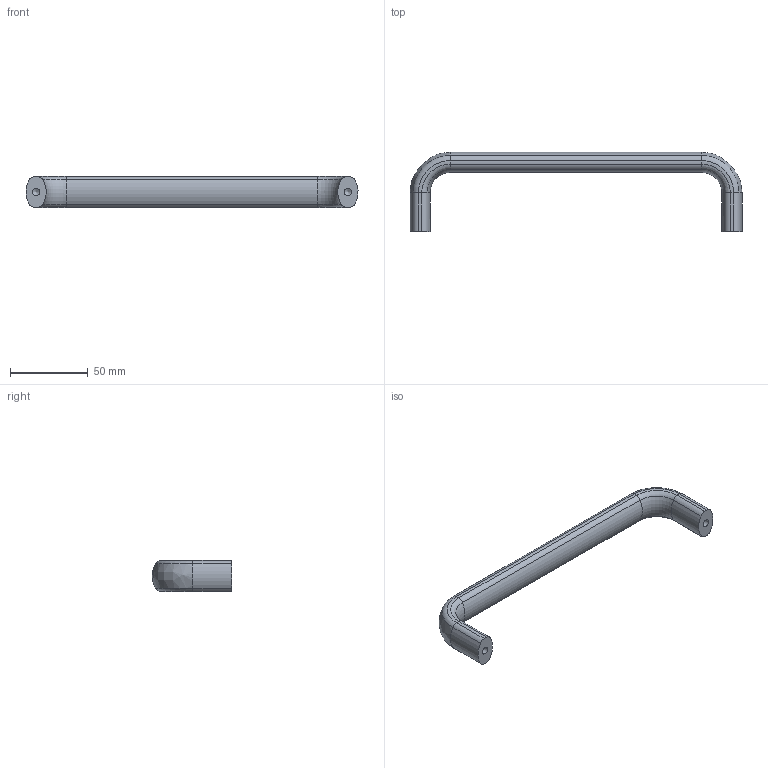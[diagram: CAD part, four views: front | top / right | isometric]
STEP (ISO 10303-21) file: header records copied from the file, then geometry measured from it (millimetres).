
FILE_DESCRIPTION( ( 'STEP AP203' ), '1' );
FILE_NAME( 'C:/Temp/Ganter_Step_05_03_2020/data/1_2/gn_565/Cabinet ''''U'''' handle GN 565-20-200-SR.stp', '2020-03-05T10:08:49', ( 'License CC BY-ND 4.0' ), ( 'CADENAS' ), ' ', 'PARTsolutions', ' ' );
FILE_SCHEMA( ( 'CONFIG_CONTROL_DESIGN' ) );
Length unit declared in the file: millimetre
Products named in the file (1): _Cabinet ''U'' handle GN 565-20-200-SR
Bounding box: 212.91 x 50.97 x 19.99 mm (x, y, z)
Volume: 56656.6 mm3; surface area: 15310.5 mm2
Topology: 1 solids, 1 shells, 53 faces, 128 edges, 77 vertices
Faces by surface type: cylinder 26, torus 14, plane 9, bspline 2, cone 2
Full cylindrical faces by diameter (mm): 4.917 x2
Entity records: 1640 total; most frequent: CARTESIAN_POINT 337, DIRECTION 304, ORIENTED_EDGE 244, AXIS2_PLACEMENT_3D 140, EDGE_CURVE 122, CIRCLE 88, VERTEX_POINT 77, EDGE_LOOP 57
